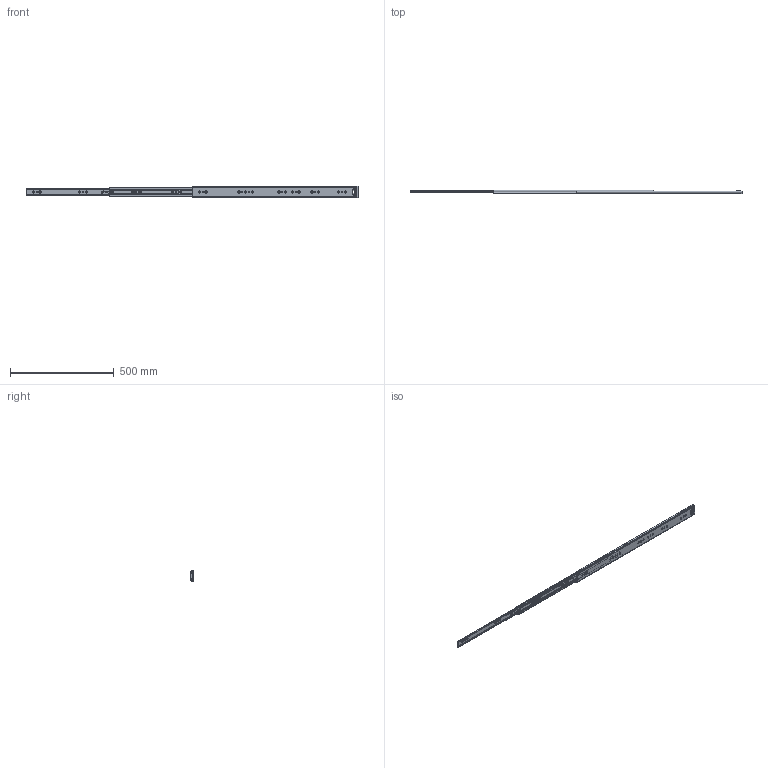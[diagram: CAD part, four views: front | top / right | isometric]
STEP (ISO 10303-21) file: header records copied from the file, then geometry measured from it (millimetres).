
FILE_DESCRIPTION((''),'2;1');
FILE_NAME('1057-02-32_ASM','2023-12-23T',('jishu015'),(''),'PRO/ENGINEER BY PARAMETRIC TECHNOLOGY CORPORATION, 2010280','PRO/ENGINEER BY PARAMETRIC TECHNOLOGY CORPORATION, 2010280','');
FILE_SCHEMA(('CONFIG_CONTROL_DESIGN'));
Products named in the file (14): KP-57-01WEIKE-18________; 1057WEIJIAO________; 1057DAZHUJIA-14GE________; 1057-5-6GANZHU________; 1057DAZHUJIA-14GE_________ASM; KP-57-01ZHONGGUI-18________; 57-ZHONGGUIDINWEIJIAN________; KP-57-01ZHONGGUI-18_________ASM; 1057XIAOZHUJIA________; 1057XIAOZHUJIA-14GE_________ASM; KP-57-01NEIGUI-18________; 45TIEBACHA________; KP-57-01NEIGUI-18_________ASM; 1057-02-32_ASM
Assembly tree (128 placements, depth 3):
  1057-02-32_ASM
    KP-57-01WEIKE-18________
    1057WEIJIAO________
    1057DAZHUJIA-14GE_________ASM
      1057DAZHUJIA-14GE________
      1057-5-6GANZHU________  x56
    KP-57-01ZHONGGUI-18_________ASM
      KP-57-01ZHONGGUI-18________
      57-ZHONGGUIDINWEIJIAN________
    1057XIAOZHUJIA-14GE_________ASM
      1057XIAOZHUJIA________
      1057-5-6GANZHU________  x60
    KP-57-01NEIGUI-18_________ASM
      KP-57-01NEIGUI-18________
      45TIEBACHA________
Bounding box: 1600 x 19 x 57.67 mm (x, y, z)
Volume: 347105 mm3; surface area: 406541.6 mm2
Topology: 124 solids, 126 shells, 3279 faces, 9214 edges, 5712 vertices
Faces by surface type: plane 1523, cylinder 1344, sphere 240, cone 102, bspline 64, torus 6
Entity records: 102904 total; most frequent: CARTESIAN_POINT 20984, DIRECTION 17384, ORIENTED_EDGE 17020, EDGE_CURVE 8512, AXIS2_PLACEMENT_3D 5963, VERTEX_POINT 5482, VECTOR 5458, LINE 5458
